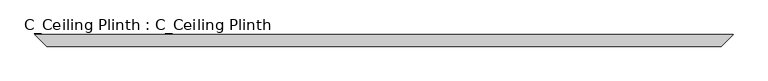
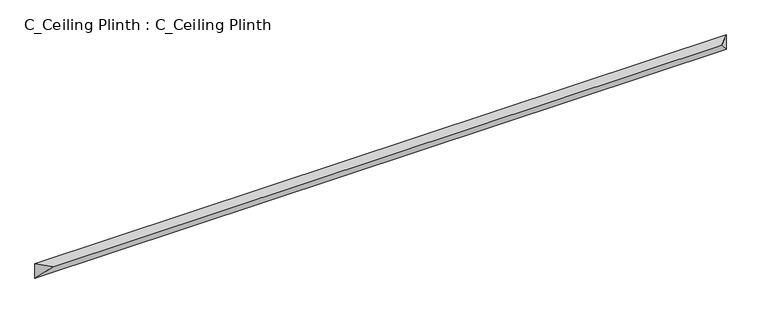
"""IFC4 building model written with IfcOpenShell, lengths in millimetres: proxy geometry, C_Ceiling Plinth : C_Ceiling Plinth."""

from ifc_helpers import new_model, si_unit, origin, place, context, project, spatial, faceted_brep, source, transform, mapped, element, save


def c_ceiling_plinth_c_ceiling_plinth_ae76a3ac(model_context):
    return source(origin(), model_context, "Body", "Brep", [
        faceted_brep([(4572.0, 0.0, 0.0), (4572.0, 0.0, -101.6), (0.0, 0.0, -101.6), (0.0, 0.0, 0.0), (4495.8, -76.2, 0.0), (76.2, -76.2, 0.0)], [[[0, 1, 2, 3]], [[4, 0, 3, 5]], [[1, 4, 5, 2]], [[1, 0, 4]], [[3, 2, 5]]]),
    ])


if __name__ == "__main__":
    model = new_model("IFC4")
    model_context = context("Model", 3, world=origin())
    ifc_project = project(units=[si_unit("LENGTHUNIT", "METRE", prefix="MILLI")], contexts=[model_context])
    site = spatial("IfcSite", under=ifc_project)
    building = spatial("IfcBuilding", under=site)
    placement = place(None, origin())
    c_ceiling_plinth_c_ceiling_plinth_shape = c_ceiling_plinth_c_ceiling_plinth_ae76a3ac(model_context)
    element("IfcBuildingElementProxy", 1, Name="C_Ceiling Plinth : C_Ceiling Plinth", ObjectType="C_Ceiling Plinth : C_Ceiling Plinth", at=placement, inside=building, context=model_context, shape_type="MappedRepresentation", body=[
        mapped(c_ceiling_plinth_c_ceiling_plinth_shape, transform((0.0, 0.0, 0.0), x_axis=(1.0, 0.0, 0.0), y_axis=(0.0, 1.0, 0.0), z_axis=(0.0, 0.0, 1.0))),
    ])
    save(model, "model.ifc")
